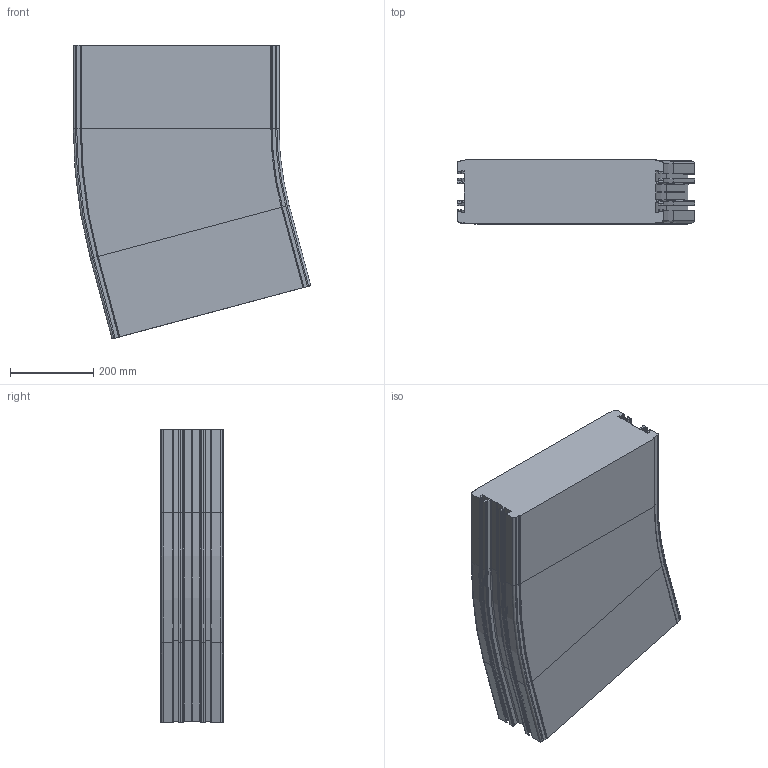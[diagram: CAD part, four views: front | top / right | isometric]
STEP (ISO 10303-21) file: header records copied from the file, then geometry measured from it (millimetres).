
FILE_DESCRIPTION (( 'STEP AP214' ), '1' );
FILE_NAME ('F2-1800-C960-15.STEP', '2016-02-16T13:16:16', ( '' ), ( '' ), 'SwSTEP 2.0', 'SolidWorks 2014', '' );
FILE_SCHEMA (( 'AUTOMOTIVE_DESIGN' ));
Length unit declared in the file: millimetre
Products named in the file (1): F2-1800-C960-15
Bounding box: 570.06 x 153.4 x 705.58 mm (x, y, z)
Volume: 47367973.4 mm3; surface area: 1243081 mm2
Topology: 1 solids, 1 shells, 644 faces, 1498 edges, 856 vertices
Faces by surface type: plane 300, cylinder 244, torus 92, cone 8
Entity records: 17974 total; most frequent: DIRECTION 3370, CARTESIAN_POINT 2999, ORIENTED_EDGE 2996, EDGE_CURVE 1498, AXIS2_PLACEMENT_3D 1227, VECTOR 916, LINE 916, VERTEX_POINT 856
